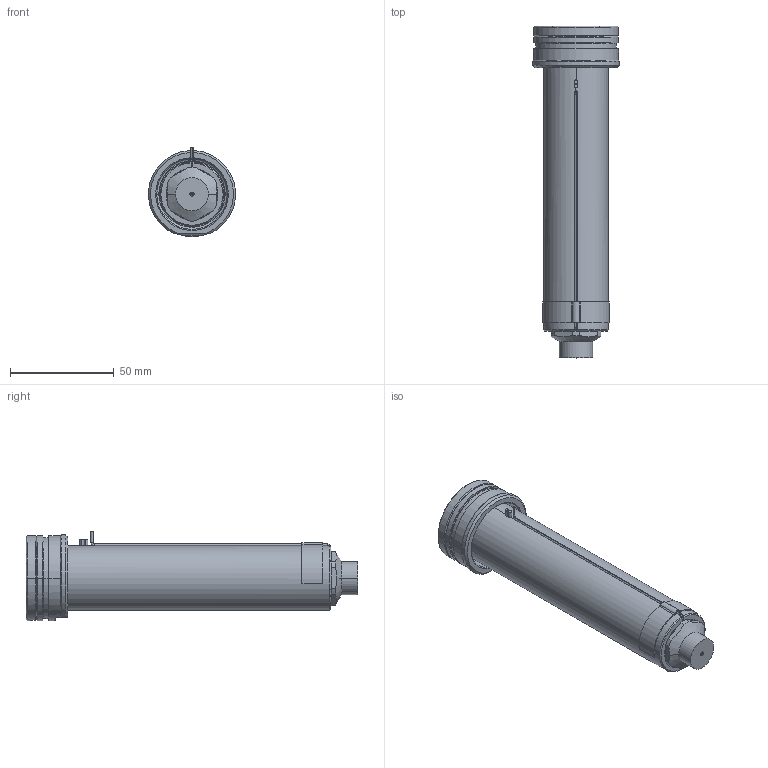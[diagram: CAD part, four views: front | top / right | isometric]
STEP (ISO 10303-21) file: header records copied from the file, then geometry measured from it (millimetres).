
FILE_DESCRIPTION((''),'2;1');
FILE_NAME('EO12_PG-FB_STD_140_SW','2024-02-19T11:37:20',('sundharh'),(''),'CREO PARAMETRIC BY PTC INC, 2023154','CREO PARAMETRIC BY PTC INC, 2023154','');
FILE_SCHEMA(('CONFIG_CONTROL_DESIGN'));
Length unit declared in the file: millimetre
Products named in the file (1): EO12_PG-FB_STD_140_SW
Bounding box: 41.85 x 160 x 43 mm (x, y, z)
Volume: 107144.6 mm3; surface area: 29929.8 mm2
Topology: 2 solids, 3 shells, 217 faces, 573 edges, 352 vertices
Faces by surface type: cylinder 82, plane 59, cone 43, torus 27, sphere 3, bspline 3
Entity records: 7801 total; most frequent: CARTESIAN_POINT 2302, DIRECTION 1219, ORIENTED_EDGE 1134, EDGE_CURVE 567, AXIS2_PLACEMENT_3D 513, VERTEX_POINT 352, CIRCLE 299, EDGE_LOOP 235
